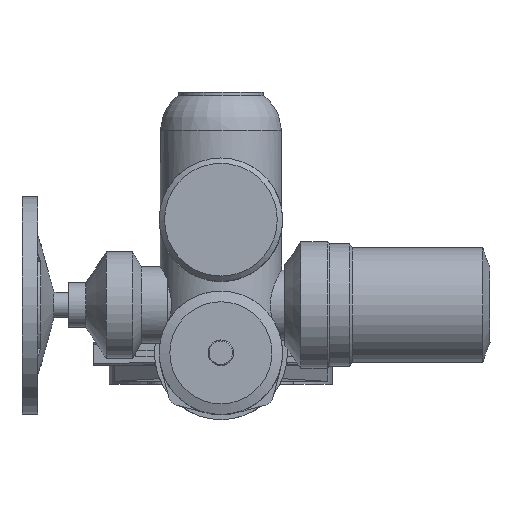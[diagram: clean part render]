
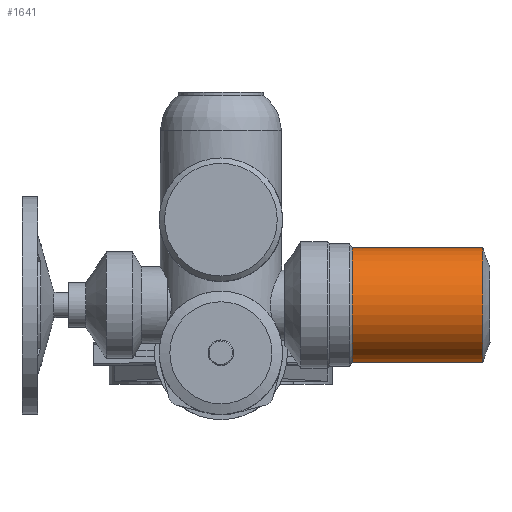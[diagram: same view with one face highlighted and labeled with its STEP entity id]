
A CAD part, top view. The second image highlights one B-rep face of the part: STEP entity #1641.
In plain terms, the highlighted cylindrical face has radius 54 mm (diameter 108 mm), a full revolution.
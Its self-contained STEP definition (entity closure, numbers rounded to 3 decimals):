
#1641=ADVANCED_FACE('',(#3547,#3549),#3551,.T.);
#3547=FACE_OUTER_BOUND('',#3548,.T.);
#3548=EDGE_LOOP('',(#4916));
#3549=FACE_OUTER_BOUND('',#3550,.T.);
#3550=EDGE_LOOP('',(#4917));
#3551=CYLINDRICAL_SURFACE('',#3552,54.);
#3552=AXIS2_PLACEMENT_3D('',#3553,#3554,#3555);
#3553=CARTESIAN_POINT('',(246.085,45.,539.));
#3554=DIRECTION('',(-1.,0.,0.));
#3555=DIRECTION('',(0.,0.,1.));
#4916=ORIENTED_EDGE('',*,*,#5693,.T.);
#4917=ORIENTED_EDGE('',*,*,#5593,.F.);
#5593=EDGE_CURVE('',#6448,#6448,#6449,.T.);
#5693=EDGE_CURVE('',#6606,#6606,#6607,.T.);
#6448=VERTEX_POINT('',#9375);
#6449=CIRCLE('',#9376,54.);
#6606=VERTEX_POINT('',#9759);
#6607=CIRCLE('',#9760,54.);
#9375=CARTESIAN_POINT('',(123.505,45.,593.));
#9376=AXIS2_PLACEMENT_3D('',#9377,#9378,#9379);
#9377=CARTESIAN_POINT('',(123.505,45.,539.));
#9378=DIRECTION('',(-1.,0.,0.));
#9379=DIRECTION('',(0.,0.,1.));
#9759=CARTESIAN_POINT('',(246.085,45.,593.));
#9760=AXIS2_PLACEMENT_3D('',#9761,#9762,#9763);
#9761=CARTESIAN_POINT('',(246.085,45.,539.));
#9762=DIRECTION('',(-1.,0.,0.));
#9763=DIRECTION('',(0.,0.,1.));
